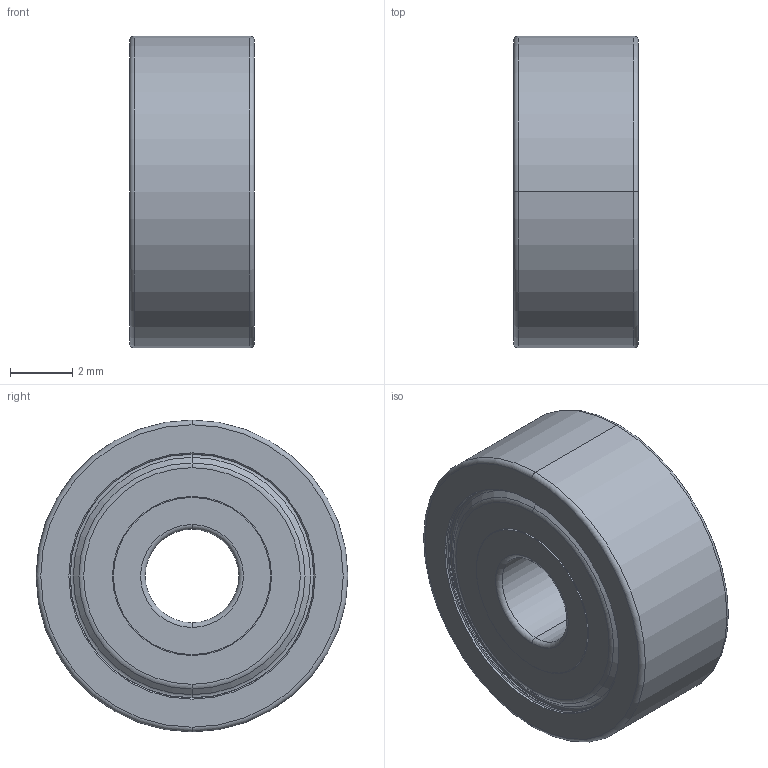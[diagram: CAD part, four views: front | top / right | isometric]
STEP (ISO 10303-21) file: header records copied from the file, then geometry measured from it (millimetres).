
FILE_DESCRIPTION((''),'2;1');
FILE_NAME('623ZZ-EA008','2025-12-19T16:30:40',('qinghui.yi'),(''),'CREO PARAMETRIC BY PTC INC, 2019164','CREO PARAMETRIC BY PTC INC, 2019164','');
FILE_SCHEMA(('CONFIG_CONTROL_DESIGN','SHAPE_APPEARANCE_LAYERS_GROUPS'));
Length unit declared in the file: millimetre
Products named in the file (1): 623ZZ-EA008
Bounding box: 4 x 10 x 10 mm (x, y, z)
Volume: 175.5 mm3; surface area: 545.5 mm2
Topology: 2 solids, 2 shells, 88 faces, 180 edges, 106 vertices
Faces by surface type: torus 34, cylinder 24, cone 16, plane 14
Entity records: 2595 total; most frequent: DIRECTION 496, CARTESIAN_POINT 374, ORIENTED_EDGE 360, AXIS2_PLACEMENT_3D 228, COLOUR_RGB 196, EDGE_CURVE 180, CIRCLE 140, VERTEX_POINT 106
